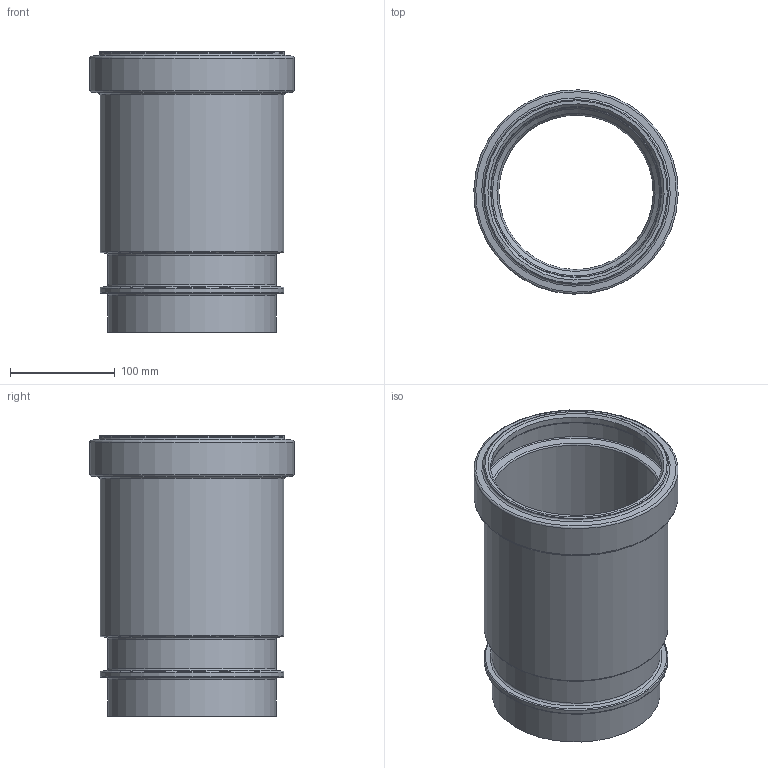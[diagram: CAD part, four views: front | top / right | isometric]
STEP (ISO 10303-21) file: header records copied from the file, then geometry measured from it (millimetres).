
FILE_DESCRIPTION(/* description */ (''),/* implementation_level */ '2;1');
FILE_NAME(/* name */ 'C:\Planerdaten\Export PLA\369.700.16.1\stp\369700.stp',/* time_stamp */ '2020-07-07T08:51:45+02:00',/* author */ ('JANAN'),/* organization */ (''),/* preprocessor_version */ 'ST-DEVELOPER v16.13',/* originating_system */ 'Autodesk Inventor 2018',/* authorisation */ '');
FILE_SCHEMA (('AUTOMOTIVE_DESIGN { 1 0 10303 214 3 1 1 }'));
Length unit declared in the file: millimetre
Products named in the file (1): Langmuffe m/Doppelbund PE-HD d160
Bounding box: 194.95 x 194.95 x 267.82 mm (x, y, z)
Volume: 1026257.9 mm3; surface area: 314329.7 mm2
Topology: 1 solids, 1 shells, 38 faces, 85 edges, 49 vertices
Faces by surface type: torus 17, cylinder 10, cone 9, plane 2
Full cylindrical faces by diameter (mm): 147.425 x1, 160.475 x2, 162.4 x1, 163.15 x1, 175.45 x2, 176.2 x1, 181.95 x1, 195 x1
Entity records: 839 total; most frequent: DIRECTION 154, CARTESIAN_POINT 115, AXIS2_PLACEMENT_3D 77, EDGE_LOOP 76, ORIENTED_EDGE 76, STYLED_ITEM 39, FACE_BOUND 38, FACE_OUTER_BOUND 38
